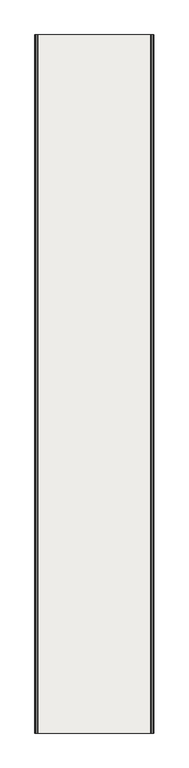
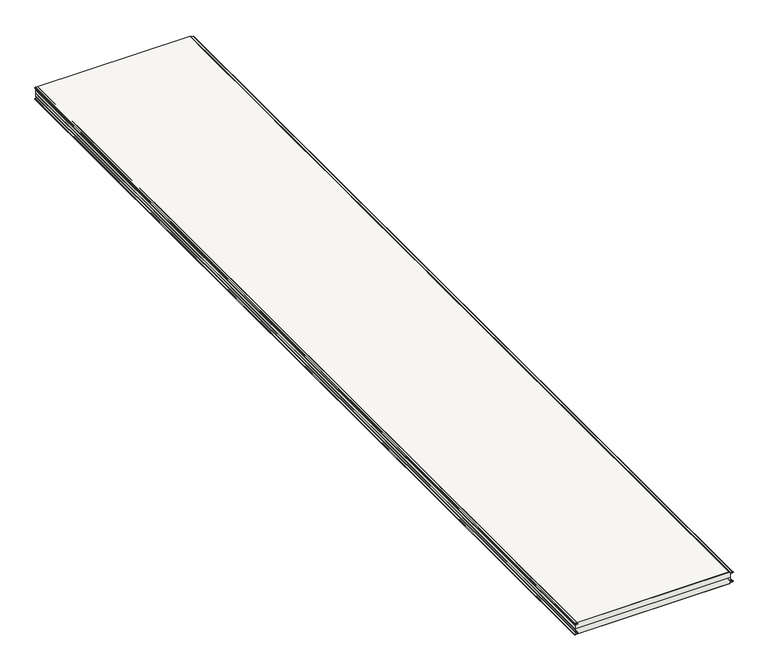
"""IFC4 building model written with IfcOpenShell, lengths in millimetres: covering geometry, Płyta warstwowa ścienna SPW-S CORE WOOL (pojedynczy arkusz) : -."""

from ifc_helpers import new_model, si_unit, point, frame, frame_2d, origin, place, context, project, spatial, polyline, circle_curve, trimmed, segment, composite_curve, outline, extrude, source, transform, mapped, element, save
from ifc_brep_helpers import plane_surface, cylinder_surface, revolved_surface, advanced_brep


def covering_66d02bca(model_context):
    return source(origin(), model_context, "Body", "SolidModel", [
        advanced_brep(
        [(-1033.5, -6000.0, -16.6075105), (-1033.5, 0.0, -16.6075105), (-1033.5, 0.0, -40.0), (-1033.5, -6000.0, -40.0), (-1032.0785013, -6000.0, -15.109566), (-1032.0785013, 0.0, -15.109566), (-1021.2683586, -6000.0, -14.5430494), (-1021.2683586, 0.0, -14.5430494), (-1021.346807, -6000.0, -5.5519576), (-1021.346807, 0.0, -5.5519576), (-1037.1871545, -6000.0, -4.9987728), (-1037.1871545, 0.0, -4.9987728), (-1037.1173522, -6000.0, -1.0), (-1037.1173522, 0.0, -1.0), (-1035.0, -6000.0, -1.0), (-36.5, -6000.0, -40.0), (-36.5, -6000.0, -16.0462304), (-33.6570079, -6000.0, -13.0503418), (-22.43132, -6000.0, -12.4620284), (-22.5993141, -6000.0, -7.6513085), (-39.1884611, -6000.0, -7.0687817), (-41.1186621, -6000.0, -5.07), (-41.1186621, -6000.0, -3.0), (-43.1186621, -6000.0, -1.0), (-1035.0, 0.0, -1.0), (-43.1186621, 0.0, -1.0), (-41.1186621, 0.0, -3.0), (-41.1186621, 0.0, -5.07), (-39.1884611, 0.0, -7.0687817), (-22.5992017, 0.0, -7.6480914), (-22.43132, 0.0, -12.4620284), (-33.6570079, 0.0, -13.0503418), (-36.5, 0.0, -16.0462304), (-36.5, 0.0, -40.0)],
        [
            (0, 1),
            (1, 2),
            (2, 3),
            (3, 0),
            (0, 4, circle_curve(frame((-1032.0, -6000.0, -16.6075105), z_axis=(0.0, 1.0, 0.0), x_axis=(-1.0, 0.0, 0.0)), 1.5)),
            (4, 5),
            (5, 1, circle_curve(frame((-1032.0, 0.0, -16.6075105), z_axis=(0.0, -1.0, 0.0), x_axis=(-1.0, 0.0, 0.0)), 1.5)),
            (4, 6),
            (6, 7),
            (7, 5),
            (6, 8, circle_curve(frame((-1021.5038626, -6000.0, -10.049216), z_axis=(0.0, -1.0, 0.0), x_axis=(-1.0, 0.0, 0.0)), 4.5)),
            (8, 9),
            (9, 7, circle_curve(frame((-1021.5038626, 0.0, -10.049216), z_axis=(0.0, 1.0, 0.0), x_axis=(-1.0, 0.0, 0.0)), 4.5)),
            (8, 10),
            (10, 11),
            (11, 9),
            (10, 12, circle_curve(frame((-1037.1173522, -6000.0, -2.9999956), z_axis=(0.0, 1.0, 0.0), x_axis=(-1.0, 0.0, 0.0)), 1.9999956)),
            (12, 13),
            (13, 11, circle_curve(frame((-1037.1173522, 0.0, -2.9999956), z_axis=(0.0, -1.0, 0.0), x_axis=(-1.0, 0.0, 0.0)), 1.9999956)),
            (14, 12),
            (3, 15),
            (15, 16),
            (16, 17, circle_curve(frame((-33.5, -6000.0, -16.0462304), z_axis=(0.0, 1.0, 0.0), x_axis=(-1.0, 0.0, 0.0)), 3.0)),
            (17, 18),
            (18, 19, circle_curve(frame((-22.6835162, -6000.0, -10.0625421), z_axis=(0.0, -1.0, 0.0), x_axis=(-1.0, 0.0, 0.0)), 2.4127033)),
            (19, 20),
            (20, 21, circle_curve(frame((-39.1186621, -6000.0, -5.07), z_axis=(0.0, 1.0, 0.0), x_axis=(-1.0, 0.0, 0.0)), 2.0)),
            (21, 22),
            (22, 23, circle_curve(frame((-43.1186621, -6000.0, -3.0), z_axis=(0.0, -1.0, 0.0), x_axis=(-1.0, 0.0, 0.0)), 2.0)),
            (23, 14),
            (13, 24),
            (24, 25),
            (25, 26, circle_curve(frame((-43.1186621, 0.0, -3.0), z_axis=(0.0, 1.0, 0.0), x_axis=(-1.0, 0.0, 0.0)), 2.0)),
            (26, 27),
            (27, 28, circle_curve(frame((-39.1186621, 0.0, -5.07), z_axis=(0.0, -1.0, 0.0), x_axis=(-1.0, 0.0, 0.0)), 2.0)),
            (28, 29),
            (29, 30, circle_curve(frame((-22.6835162, 0.0, -10.0625421), z_axis=(0.0, 1.0, 0.0), x_axis=(-1.0, 0.0, 0.0)), 2.4127033)),
            (30, 31),
            (31, 32, circle_curve(frame((-33.5, 0.0, -16.0462304), z_axis=(0.0, -1.0, 0.0), x_axis=(-1.0, 0.0, 0.0)), 3.0)),
            (32, 33),
            (33, 2),
            (23, 25),
            (33, 15),
            (22, 26),
            (21, 27),
            (20, 28),
            (19, 29),
            (18, 30),
            (17, 31),
            (16, 32),
        ],
        [
            plane_surface(frame((-1033.5, -6000.0, -63.3924895), z_axis=(-1.0, 0.0, 0.0), x_axis=(0.0, 1.0, 0.0))),
            cylinder_surface(frame((-1032.0, -6000.0, -16.6075105), z_axis=(0.0, 1.0, 0.0), x_axis=(-1.0, 0.0, 0.0)), 1.5),
            plane_surface(frame((-1032.0785013, -6000.0, -15.109566), z_axis=(-0.052334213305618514, 0.0, 0.9986296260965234), x_axis=(0.0, 1.0, 0.0))),
            revolved_surface(polyline([(-1026.0038626, -6000.0, -10.049216), (-1026.0038626, 0.0, -10.049216)]), (-1021.5038626, -6000.0, -10.049216), (0.0, -1.0, 0.0)),
            plane_surface(frame((-1021.346807, -6000.0, -5.5519576), z_axis=(-0.03490124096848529, 0.0, -0.9993907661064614), x_axis=(0.0, 1.0, 0.0))),
            cylinder_surface(frame((-1037.1173522, -6000.0, -2.9999956), z_axis=(0.0, 1.0, 0.0), x_axis=(-1.0, 0.0, 0.0)), 1.9999956),
            plane_surface(frame((-1065.0, -6000.0, -1.0), z_axis=(0.0, -1.0, 0.0), x_axis=(-1.0, 0.0, 0.0))),
            plane_surface(frame((-1065.0, 0.0, -1.0), z_axis=(0.0, 1.0, 0.0), x_axis=(1.0, 0.0, 0.0))),
            plane_surface(frame((15.0, -6000.0, -1.0), z_axis=(0.0, 0.0, 1.0), x_axis=(0.0, 1.0, 0.0))),
            plane_surface(frame((-1065.0, -6000.0, -40.0), z_axis=(0.0, 0.0, -1.0), x_axis=(0.0, 1.0, 0.0))),
            cylinder_surface(frame((-43.1186621, -6000.0, -3.0), z_axis=(0.0, 1.0, 0.0), x_axis=(-1.0, 0.0, 0.0)), 2.0),
            plane_surface(frame((-41.1186621, -6000.0, -3.0), z_axis=(1.0, 0.0, 0.0), x_axis=(0.0, 1.0, 0.0))),
            revolved_surface(polyline([(-41.1186621, -6000.0, -5.07), (-41.1186621, 0.0, -5.07)]), (-39.1186621, -6000.0, -5.07), (0.0, -1.0, 0.0)),
            plane_surface(frame((-39.1884611, -6000.0, -7.0687817), z_axis=(0.0348994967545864, 0.0, 0.9993908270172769), x_axis=(0.0, 1.0, 0.0))),
            cylinder_surface(frame((-22.6835162, -6000.0, -10.0625421), z_axis=(0.0, 1.0, 0.0), x_axis=(-1.0, 0.0, 0.0)), 2.4127033),
            plane_surface(frame((-22.43132, -6000.0, -12.4620284), z_axis=(0.052335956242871, 0.0, -0.9986295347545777), x_axis=(0.0, 1.0, 0.0))),
            revolved_surface(polyline([(-36.5, -6000.0, -16.0462304), (-36.5, 0.0, -16.0462304)]), (-33.5, -6000.0, -16.0462304), (0.0, -1.0, 0.0)),
            plane_surface(frame((-36.5, -6000.0, -16.0462304), z_axis=(1.0, 0.0, 0.0), x_axis=(0.0, 1.0, 0.0))),
        ],
        [
            (0, [[1, 2, 3, 4]]),
            (1, [[-1, 5, 6, 7]]),
            (2, [[-6, 8, 9, 10]]),
            (3, [[-9, 11, 12, 13]]),
            (4, [[-12, 14, 15, 16]]),
            (5, [[-15, 17, 18, 19]]),
            (6, [[20, -17, -14, -11, -8, -5, -4, 21, 22, 23, 24, 25, 26, 27, 28, 29, 30]]),
            (7, [[31, 32, 33, 34, 35, 36, 37, 38, 39, 40, 41, -2, -7, -10, -13, -16, -19]]),
            (8, [[-20, -30, 42, -32, -31, -18]]),
            (9, [[-3, -41, 43, -21]]),
            (10, [[44, -33, -42, -29]]),
            (11, [[-44, -28, 45, -34]]),
            (12, [[-45, -27, 46, -35]]),
            (13, [[-46, -26, 47, -36]]),
            (14, [[-47, -25, 48, -37]]),
            (15, [[-48, -24, 49, -38]]),
            (16, [[-49, -23, 50, -39]]),
            (17, [[-50, -22, -43, -40]]),
        ],
    ),
        advanced_brep(
        [(-1037.1173522, -6000.0, -79.0), (-1035.0, -6000.0, -79.0), (-44.6192414, -6000.0, -79.0), (-43.1186621, -6000.0, -79.0), (-41.1186621, -6000.0, -77.0), (-41.1186621, -6000.0, -74.93), (-39.1884611, -6000.0, -72.9312183), (-22.5992017, -6000.0, -72.3519086), (-22.1786572, -6000.0, -67.5781667), (-33.6570079, -6000.0, -66.9496582), (-36.5, -6000.0, -63.9537696), (-36.5, -6000.0, -40.0), (-1033.5, -6000.0, -40.0), (-1033.5, -6000.0, -63.3924895), (-1032.0785013, -6000.0, -64.890434), (-1021.2683586, -6000.0, -65.4569506), (-1021.346807, -6000.0, -74.4480424), (-1037.1871545, -6000.0, -75.0012272), (-1035.0, 0.0, -79.0), (-1037.1173522, 0.0, -79.0), (-1037.1871545, 0.0, -75.0012272), (-1021.346807, 0.0, -74.4480424), (-1021.2683586, 0.0, -65.4569506), (-1032.0785013, 0.0, -64.890434), (-1033.5, 0.0, -63.3924895), (-1033.5, 0.0, -40.0), (-36.5, 0.0, -40.0), (-36.5, 0.0, -63.9537696), (-33.6570079, 0.0, -66.9496582), (-22.1786572, 0.0, -67.5781667), (-22.5993141, 0.0, -72.3486915), (-39.1884611, 0.0, -72.9312183), (-41.1186621, 0.0, -74.93), (-41.1186621, 0.0, -77.0), (-43.1186621, 0.0, -79.0), (-44.6192414, 0.0, -79.0)],
        [
            (0, 1),
            (1, 2),
            (2, 3),
            (3, 4, circle_curve(frame((-43.1186621, -6000.0, -77.0), z_axis=(0.0, -1.0, 0.0), x_axis=(-1.0, 0.0, 0.0)), 2.0)),
            (4, 5),
            (5, 6, circle_curve(frame((-39.1186621, -6000.0, -74.93), z_axis=(0.0, 1.0, 0.0), x_axis=(-1.0, 0.0, 0.0)), 2.0)),
            (6, 7),
            (7, 8, circle_curve(frame((-22.6835162, -6000.0, -69.9374579), z_axis=(0.0, -1.0, 0.0), x_axis=(-1.0, 0.0, 0.0)), 2.4127033)),
            (8, 9),
            (9, 10, circle_curve(frame((-33.5, -6000.0, -63.9537696), z_axis=(0.0, 1.0, 0.0), x_axis=(-1.0, 0.0, 0.0)), 3.0)),
            (10, 11),
            (11, 12),
            (12, 13),
            (13, 14, circle_curve(frame((-1032.0, -6000.0, -63.3924895), z_axis=(0.0, -1.0, 0.0), x_axis=(-1.0, 0.0, 0.0)), 1.5)),
            (14, 15),
            (15, 16, circle_curve(frame((-1021.5038626, -6000.0, -69.950784), z_axis=(0.0, 1.0, 0.0), x_axis=(-1.0, 0.0, 0.0)), 4.5)),
            (16, 17),
            (17, 0, circle_curve(frame((-1037.1173522, -6000.0, -77.0000044), z_axis=(0.0, -1.0, 0.0), x_axis=(-1.0, 0.0, 0.0)), 1.9999956)),
            (18, 19),
            (19, 20, circle_curve(frame((-1037.1173522, 0.0, -77.0000044), z_axis=(0.0, 1.0, 0.0), x_axis=(-1.0, 0.0, 0.0)), 1.9999956)),
            (20, 21),
            (21, 22, circle_curve(frame((-1021.5038626, 0.0, -69.950784), z_axis=(0.0, -1.0, 0.0), x_axis=(-1.0, 0.0, 0.0)), 4.5)),
            (22, 23),
            (23, 24, circle_curve(frame((-1032.0, 0.0, -63.3924895), z_axis=(0.0, 1.0, 0.0), x_axis=(-1.0, 0.0, 0.0)), 1.5)),
            (24, 25),
            (25, 26),
            (26, 27),
            (27, 28, circle_curve(frame((-33.5, 0.0, -63.9537696), z_axis=(0.0, -1.0, 0.0), x_axis=(-1.0, 0.0, 0.0)), 3.0)),
            (28, 29),
            (29, 30, circle_curve(frame((-22.6835162, 0.0, -69.9374579), z_axis=(0.0, 1.0, 0.0), x_axis=(-1.0, 0.0, 0.0)), 2.4127033)),
            (30, 31),
            (31, 32, circle_curve(frame((-39.1186621, 0.0, -74.93), z_axis=(0.0, -1.0, 0.0), x_axis=(-1.0, 0.0, 0.0)), 2.0)),
            (32, 33),
            (33, 34, circle_curve(frame((-43.1186621, 0.0, -77.0), z_axis=(0.0, 1.0, 0.0), x_axis=(-1.0, 0.0, 0.0)), 2.0)),
            (34, 35),
            (35, 18),
            (25, 12),
            (11, 26),
            (0, 19),
            (34, 3),
            (17, 20),
            (16, 21),
            (15, 22),
            (14, 23),
            (13, 24),
            (10, 27),
            (9, 28),
            (8, 29),
            (7, 30),
            (6, 31),
            (5, 32),
            (4, 33),
        ],
        [
            plane_surface(frame((-1065.0, -6000.0, -40.0), z_axis=(0.0, -1.0, 0.0), x_axis=(-1.0, 0.0, 0.0))),
            plane_surface(frame((-1065.0, 0.0, -40.0), z_axis=(0.0, 1.0, 0.0), x_axis=(1.0, 0.0, 0.0))),
            plane_surface(frame((15.0, -6000.0, -40.0), z_axis=(0.0, 0.0, 1.0), x_axis=(0.0, 1.0, 0.0))),
            plane_surface(frame((-1065.0, -6000.0, -79.0), z_axis=(0.0, 0.0, -1.0), x_axis=(0.0, 1.0, 0.0))),
            cylinder_surface(frame((-1037.1173522, -6000.0, -77.0000044), z_axis=(0.0, 1.0, 0.0), x_axis=(-1.0, 0.0, 0.0)), 1.9999956),
            plane_surface(frame((-1037.1871545, -6000.0, -75.0012272), z_axis=(-0.03490124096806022, 0.0, 0.9993907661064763), x_axis=(0.0, 1.0, 0.0))),
            revolved_surface(polyline([(-1026.0038626, -6000.0, -69.950784), (-1026.0038626, 0.0, -69.950784)]), (-1021.5038626, -6000.0, -69.950784), (0.0, -1.0, 0.0)),
            plane_surface(frame((-1021.2683586, -6000.0, -65.4569506), z_axis=(-0.05233421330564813, 0.0, -0.9986296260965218), x_axis=(0.0, 1.0, 0.0))),
            cylinder_surface(frame((-1032.0, -6000.0, -63.3924895), z_axis=(0.0, 1.0, 0.0), x_axis=(-1.0, 0.0, 0.0)), 1.5),
            plane_surface(frame((-1033.5, -6000.0, -63.3924895), z_axis=(-1.0, 0.0, 0.0), x_axis=(0.0, 1.0, 0.0))),
            plane_surface(frame((-36.5, -6000.0, -16.0462304), z_axis=(1.0, 0.0, 0.0), x_axis=(0.0, 1.0, 0.0))),
            revolved_surface(polyline([(-36.5, -6000.0, -63.9537696), (-36.5, 0.0, -63.9537696)]), (-33.5, -6000.0, -63.9537696), (0.0, -1.0, 0.0)),
            plane_surface(frame((-33.6570079, -6000.0, -66.9496582), z_axis=(0.05467409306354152, 0.0, 0.9985042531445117), x_axis=(0.0, 1.0, 0.0))),
            cylinder_surface(frame((-22.6835162, -6000.0, -69.9374579), z_axis=(0.0, 1.0, 0.0), x_axis=(-1.0, 0.0, 0.0)), 2.4127033),
            plane_surface(frame((-22.5992017, -6000.0, -72.3519086), z_axis=(0.03489949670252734, 0.0, -0.9993908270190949), x_axis=(0.0, 1.0, 0.0))),
            revolved_surface(polyline([(-41.1186621, -6000.0, -74.93), (-41.1186621, 0.0, -74.93)]), (-39.1186621, -6000.0, -74.93), (0.0, -1.0, 0.0)),
            plane_surface(frame((-41.1186621, -6000.0, -74.93), z_axis=(1.0, 0.0, 0.0), x_axis=(0.0, 1.0, 0.0))),
            cylinder_surface(frame((-43.1186621, -6000.0, -77.0), z_axis=(0.0, 1.0, 0.0), x_axis=(-1.0, 0.0, 0.0)), 2.0),
        ],
        [
            (0, [[1, 2, 3, 4, 5, 6, 7, 8, 9, 10, 11, 12, 13, 14, 15, 16, 17, 18]]),
            (1, [[19, 20, 21, 22, 23, 24, 25, 26, 27, 28, 29, 30, 31, 32, 33, 34, 35, 36]]),
            (2, [[37, -12, 38, -26]]),
            (3, [[-1, 39, -19, -36, -35, 40, -3, -2]]),
            (4, [[41, -20, -39, -18]]),
            (5, [[-41, -17, 42, -21]]),
            (6, [[-42, -16, 43, -22]]),
            (7, [[-43, -15, 44, -23]]),
            (8, [[-44, -14, 45, -24]]),
            (9, [[-45, -13, -37, -25]]),
            (10, [[46, -27, -38, -11]]),
            (11, [[-46, -10, 47, -28]]),
            (12, [[-47, -9, 48, -29]]),
            (13, [[-48, -8, 49, -30]]),
            (14, [[-49, -7, 50, -31]]),
            (15, [[-50, -6, 51, -32]]),
            (16, [[-51, -5, 52, -33]]),
            (17, [[-52, -4, -40, -34]]),
        ],
    ),
        advanced_brep(
        [(-39.1884611, 0.0, -72.9312183), (-41.1186621, 0.0, -74.93), (-41.1186621, -6000.0, -74.93), (-39.1884611, -6000.0, -72.9312183), (-41.1186621, 0.0, -77.0), (-41.1186621, -6000.0, -77.0), (-43.1186621, 0.0, -79.0), (-43.1186621, -6000.0, -79.0), (-22.5992017, 0.0, -72.3519086), (-22.5992017, -6000.0, -72.3519086), (-33.6570079, 0.0, -66.9496582), (-22.43132, 0.0, -67.5379716), (-22.43132, -6000.0, -67.5379716), (-33.6570079, -6000.0, -66.9496582), (-35.5, 0.0, -61.4537696), (-36.5, 0.0, -61.4537696), (-36.5, -6000.0, -61.4537696), (-35.5, -6000.0, -61.4537696), (-36.5, 0.0, -63.9537696), (-36.5, -6000.0, -63.9537696), (-40.1186621, 0.0, -74.93), (-39.1535616, 0.0, -73.9306092), (-39.1535616, -6000.0, -73.9306092), (-40.1186621, -6000.0, -74.93), (-35.5, 0.0, -63.9537696), (-35.5, -6000.0, -63.9537696), (-33.6046719, 0.0, -65.9510287), (-33.6046719, -6000.0, -65.9510287), (-22.6071775, 0.0, -66.5273829), (-22.6071775, -6000.0, -66.5273829), (-22.7218558, 0.0, -73.3568014), (-22.7218558, -6000.0, -73.3568014), (-40.1186621, 0.0, -77.0), (-40.1186621, -6000.0, -77.0), (-43.1186621, 0.0, -80.0), (-43.1186621, -6000.0, -80.0), (-1037.1173522, -6000.0, -79.0), (-1037.1871545, -6000.0, -75.0012272), (-1021.346807, -6000.0, -74.4480424), (-1021.2683586, -6000.0, -65.4569506), (-1032.0785013, -6000.0, -64.890434), (-1033.5, -6000.0, -63.3924895), (-1033.5, -6000.0, -60.8924895), (-1034.5, -6000.0, -60.8924895), (-1034.5, -6000.0, -63.3924895), (-1032.1308355, -6000.0, -65.8890636), (-1021.3206928, -6000.0, -66.4555803), (-1021.3817082, -6000.0, -73.4486516), (-1037.2220557, -6000.0, -74.0018364), (-1037.1173522, -6000.0, -80.0), (-1037.1173522, 0.0, -80.0), (-1037.2220557, 0.0, -74.0018364), (-1021.3817082, 0.0, -73.4486516), (-1021.3206928, 0.0, -66.4555803), (-1032.1308355, 0.0, -65.8890636), (-1034.5, 0.0, -63.3924895), (-1034.5, 0.0, -60.8924895), (-1033.5, 0.0, -60.8924895), (-1033.5, 0.0, -63.3924895), (-1032.0785013, 0.0, -64.890434), (-1021.2683586, 0.0, -65.4569506), (-1021.346807, 0.0, -74.4480424), (-1037.1871545, 0.0, -75.0012272), (-1037.1173522, 0.0, -79.0)],
        [
            (0, 1, circle_curve(frame((-39.1186621, 0.0, -74.93), z_axis=(0.0, -1.0, 0.0), x_axis=(1.0, 0.0, 0.0)), 2.0)),
            (1, 2),
            (2, 3, circle_curve(frame((-39.1186621, -6000.0, -74.93), z_axis=(0.0, 1.0, 0.0), x_axis=(1.0, 0.0, 0.0)), 2.0)),
            (3, 0),
            (1, 4),
            (4, 5),
            (5, 2),
            (4, 6, circle_curve(frame((-43.1186621, 0.0, -77.0), z_axis=(0.0, 1.0, 0.0), x_axis=(1.0, 0.0, 0.0)), 2.0)),
            (6, 7),
            (7, 5, circle_curve(frame((-43.1186621, -6000.0, -77.0), z_axis=(0.0, -1.0, 0.0), x_axis=(1.0, 0.0, 0.0)), 2.0)),
            (8, 0),
            (3, 9),
            (9, 8),
            (10, 11),
            (11, 12),
            (12, 13),
            (13, 10),
            (14, 15),
            (15, 16),
            (16, 17),
            (17, 14),
            (18, 10, circle_curve(frame((-33.5, 0.0, -63.9537696), z_axis=(0.0, -1.0, 0.0), x_axis=(1.0, 0.0, 0.0)), 3.0)),
            (13, 19, circle_curve(frame((-33.5, -6000.0, -63.9537696), z_axis=(0.0, 1.0, 0.0), x_axis=(1.0, 0.0, 0.0)), 3.0)),
            (19, 18),
            (15, 18),
            (19, 16),
            (20, 21, circle_curve(frame((-39.1186621, 0.0, -74.93), z_axis=(0.0, 1.0, 0.0), x_axis=(1.0, 0.0, 0.0)), 1.0)),
            (21, 22),
            (22, 23, circle_curve(frame((-39.1186621, -6000.0, -74.93), z_axis=(0.0, -1.0, 0.0), x_axis=(1.0, 0.0, 0.0)), 1.0)),
            (23, 20),
            (24, 14),
            (17, 25),
            (25, 24),
            (26, 24, circle_curve(frame((-33.5, 0.0, -63.9537696), z_axis=(0.0, 1.0, 0.0), x_axis=(1.0, 0.0, 0.0)), 2.0)),
            (25, 27, circle_curve(frame((-33.5, -6000.0, -63.9537696), z_axis=(0.0, -1.0, 0.0), x_axis=(1.0, 0.0, 0.0)), 2.0)),
            (27, 26),
            (28, 26),
            (27, 29),
            (29, 28),
            (21, 30),
            (30, 31),
            (31, 22),
            (32, 20),
            (23, 33),
            (33, 32),
            (34, 32, circle_curve(frame((-43.1186621, 0.0, -77.0), z_axis=(0.0, -1.0, 0.0), x_axis=(1.0, 0.0, 0.0)), 3.0)),
            (33, 35, circle_curve(frame((-43.1186621, -6000.0, -77.0), z_axis=(0.0, 1.0, 0.0), x_axis=(1.0, 0.0, 0.0)), 3.0)),
            (35, 34),
            (11, 8, circle_curve(frame((-22.6835162, 0.0, -69.9374579), z_axis=(0.0, 1.0, 0.0), x_axis=(1.0, 0.0, 0.0)), 2.4127033)),
            (9, 12, circle_curve(frame((-22.6835162, -6000.0, -69.9374579), z_axis=(0.0, -1.0, 0.0), x_axis=(1.0, 0.0, 0.0)), 2.4127033)),
            (30, 28, circle_curve(frame((-22.6835162, 0.0, -69.9374579), z_axis=(0.0, -1.0, 0.0), x_axis=(1.0, 0.0, 0.0)), 3.4127033)),
            (29, 31, circle_curve(frame((-22.6835162, -6000.0, -69.9374579), z_axis=(0.0, 1.0, 0.0), x_axis=(1.0, 0.0, 0.0)), 3.4127033)),
            (36, 37, circle_curve(frame((-1037.1173522, -6000.0, -77.0000044), z_axis=(0.0, 1.0, 0.0), x_axis=(1.0, 0.0, 0.0)), 1.9999956)),
            (37, 38),
            (38, 39, circle_curve(frame((-1021.5038626, -6000.0, -69.950784), z_axis=(0.0, -1.0, 0.0), x_axis=(1.0, 0.0, 0.0)), 4.5)),
            (39, 40),
            (40, 41, circle_curve(frame((-1032.0, -6000.0, -63.3924895), z_axis=(0.0, 1.0, 0.0), x_axis=(1.0, 0.0, 0.0)), 1.5)),
            (41, 42),
            (42, 43),
            (43, 44),
            (44, 45, circle_curve(frame((-1032.0, -6000.0, -63.3924895), z_axis=(0.0, -1.0, 0.0), x_axis=(1.0, 0.0, 0.0)), 2.5)),
            (45, 46),
            (46, 47, circle_curve(frame((-1021.5038626, -6000.0, -69.950784), z_axis=(0.0, 1.0, 0.0), x_axis=(1.0, 0.0, 0.0)), 3.5)),
            (47, 48),
            (48, 49, circle_curve(frame((-1037.1173522, -6000.0, -77.0000044), z_axis=(0.0, -1.0, 0.0), x_axis=(1.0, 0.0, 0.0)), 2.9999956)),
            (49, 35),
            (7, 36),
            (34, 50),
            (50, 51, circle_curve(frame((-1037.1173522, 0.0, -77.0000044), z_axis=(0.0, 1.0, 0.0), x_axis=(1.0, 0.0, 0.0)), 2.9999956)),
            (51, 52),
            (52, 53, circle_curve(frame((-1021.5038626, 0.0, -69.950784), z_axis=(0.0, -1.0, 0.0), x_axis=(1.0, 0.0, 0.0)), 3.5)),
            (53, 54),
            (54, 55, circle_curve(frame((-1032.0, 0.0, -63.3924895), z_axis=(0.0, 1.0, 0.0), x_axis=(1.0, 0.0, 0.0)), 2.5)),
            (55, 56),
            (56, 57),
            (57, 58),
            (58, 59, circle_curve(frame((-1032.0, 0.0, -63.3924895), z_axis=(0.0, -1.0, 0.0), x_axis=(1.0, 0.0, 0.0)), 1.5)),
            (59, 60),
            (60, 61, circle_curve(frame((-1021.5038626, 0.0, -69.950784), z_axis=(0.0, 1.0, 0.0), x_axis=(1.0, 0.0, 0.0)), 4.5)),
            (61, 62),
            (62, 63, circle_curve(frame((-1037.1173522, 0.0, -77.0000044), z_axis=(0.0, -1.0, 0.0), x_axis=(1.0, 0.0, 0.0)), 1.9999956)),
            (63, 6),
            (36, 63),
            (62, 37),
            (61, 38),
            (60, 39),
            (59, 40),
            (58, 41),
            (57, 42),
            (56, 43),
            (55, 44),
            (54, 45),
            (53, 46),
            (52, 47),
            (51, 48),
            (50, 49),
        ],
        [
            cylinder_surface(frame((-39.1186621, 0.0, -74.93), z_axis=(0.0, 1.0, 0.0), x_axis=(1.0, 0.0, 0.0)), 2.0),
            plane_surface(frame((-41.1186621, 0.0, -77.0), z_axis=(-1.0, 0.0, 0.0), x_axis=(0.0, -1.0, 0.0))),
            revolved_surface(polyline([(-41.1186621, -6000.0, -77.0), (-41.1186621, 0.0, -77.0)]), (-43.1186621, 0.0, -77.0), (0.0, -1.0, 0.0)),
            plane_surface(frame((-39.1884611, 0.0, -72.9312183), z_axis=(-0.03489949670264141, 0.0, 0.9993908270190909), x_axis=(0.0, -1.0, 0.0))),
            plane_surface(frame((-22.43132, 0.0, -67.5379716), z_axis=(-0.052335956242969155, 0.0, -0.9986295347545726), x_axis=(0.0, -1.0, 0.0))),
            plane_surface(frame((-36.5, 0.0, -61.4537696), z_axis=(0.0, 0.0, 1.0), x_axis=(0.0, -1.0, 0.0))),
            cylinder_surface(frame((-33.5, 0.0, -63.9537696), z_axis=(0.0, 1.0, 0.0), x_axis=(1.0, 0.0, 0.0)), 3.0),
            plane_surface(frame((-36.5, 0.0, -63.9537696), z_axis=(-1.0, 0.0, 0.0), x_axis=(0.0, -1.0, 0.0))),
            revolved_surface(polyline([(-38.1186621, -6000.0, -74.93), (-38.1186621, 0.0, -74.93)]), (-39.1186621, 0.0, -74.93), (0.0, -1.0, 0.0)),
            plane_surface(frame((-35.5, 0.0, -61.4537696), z_axis=(1.0, 0.0, 0.0), x_axis=(0.0, -1.0, 0.0))),
            revolved_surface(polyline([(-31.5, -6000.0, -63.9537696), (-31.5, 0.0, -63.9537696)]), (-33.5, 0.0, -63.9537696), (0.0, -1.0, 0.0)),
            plane_surface(frame((-33.6046719, 0.0, -65.9510287), z_axis=(0.05233595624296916, 0.0, 0.9986295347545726), x_axis=(0.0, -1.0, 0.0))),
            plane_surface(frame((-22.7218558, 0.0, -73.3568014), z_axis=(0.0348994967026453, 0.0, -0.9993908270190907), x_axis=(0.0, -1.0, 0.0))),
            plane_surface(frame((-40.1186621, 0.0, -74.93), z_axis=(1.0, 0.0, 0.0), x_axis=(0.0, -1.0, 0.0))),
            cylinder_surface(frame((-43.1186621, 0.0, -77.0), z_axis=(0.0, 1.0, 0.0), x_axis=(1.0, 0.0, 0.0)), 3.0),
            revolved_surface(polyline([(-20.2708129, -6000.0, -69.9374579), (-20.2708129, 0.0, -69.9374579)]), (-22.6835162, 0.0, -69.9374579), (0.0, -1.0, 0.0)),
            cylinder_surface(frame((-22.6835162, 0.0, -69.9374579), z_axis=(0.0, 1.0, 0.0), x_axis=(1.0, 0.0, 0.0)), 3.4127033),
            plane_surface(frame((-1035.0, -6000.0, -80.0), z_axis=(0.0, -1.0, 0.0), x_axis=(0.0, 0.0, -1.0))),
            plane_surface(frame((-1035.0, 0.0, -80.0), z_axis=(0.0, 1.0, 0.0), x_axis=(0.0, 0.0, -1.0))),
            revolved_surface(polyline([(-1035.1173566, 0.0, -77.0000044), (-1035.1173566, -6000.0, -77.0000044)]), (-1037.1173522, -6000.0, -77.0000044), (0.0, 1.0, 0.0)),
            plane_surface(frame((-1037.1871545, -6000.0, -75.0012272), z_axis=(0.03490124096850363, 0.0, -0.9993907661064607), x_axis=(0.0, 1.0, 0.0))),
            cylinder_surface(frame((-1021.5038626, -6000.0, -69.950784), z_axis=(0.0, -1.0, 0.0), x_axis=(1.0, 0.0, 0.0)), 4.5),
            plane_surface(frame((-1021.2683586, -6000.0, -65.4569506), z_axis=(0.05233421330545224, 0.0, 0.9986296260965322), x_axis=(0.0, 1.0, 0.0))),
            revolved_surface(polyline([(-1030.5, 0.0, -63.3924895), (-1030.5, -6000.0, -63.3924895)]), (-1032.0, -6000.0, -63.3924895), (0.0, 1.0, 0.0)),
            plane_surface(frame((-1033.5, -6000.0, -63.3924895), z_axis=(1.0, 0.0, 0.0), x_axis=(0.0, 1.0, 0.0))),
            plane_surface(frame((-1033.5, -6000.0, -60.8924895), z_axis=(0.0, 0.0, 1.0), x_axis=(0.0, 1.0, 0.0))),
            plane_surface(frame((-1034.5, -6000.0, -60.8924895), z_axis=(-1.0, 0.0, 0.0), x_axis=(0.0, 1.0, 0.0))),
            cylinder_surface(frame((-1032.0, -6000.0, -63.3924895), z_axis=(0.0, -1.0, 0.0), x_axis=(1.0, 0.0, 0.0)), 2.5),
            plane_surface(frame((-1032.1308355, -6000.0, -65.8890636), z_axis=(-0.052334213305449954, 0.0, -0.9986296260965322), x_axis=(0.0, 1.0, 0.0))),
            revolved_surface(polyline([(-1018.0038626, 0.0, -69.950784), (-1018.0038626, -6000.0, -69.950784)]), (-1021.5038626, -6000.0, -69.950784), (0.0, 1.0, 0.0)),
            plane_surface(frame((-1021.3817082, -6000.0, -73.4486516), z_axis=(-0.03490124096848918, 0.0, 0.9993907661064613), x_axis=(0.0, 1.0, 0.0))),
            cylinder_surface(frame((-1037.1173522, -6000.0, -77.0000044), z_axis=(0.0, -1.0, 0.0), x_axis=(1.0, 0.0, 0.0)), 2.9999956),
            plane_surface(frame((-1037.1173522, -6000.0, -80.0), z_axis=(0.0, 0.0, -1.0), x_axis=(0.0, 1.0, 0.0))),
            plane_surface(frame((-1035.0, -6000.0, -79.0), z_axis=(0.0, 0.0, 1.0), x_axis=(0.0, 1.0, 0.0))),
        ],
        [
            (0, [[1, 2, 3, 4]]),
            (1, [[5, 6, 7, -2]]),
            (2, [[8, 9, 10, -6]]),
            (3, [[11, -4, 12, 13]]),
            (4, [[14, 15, 16, 17]]),
            (5, [[18, 19, 20, 21]]),
            (6, [[22, -17, 23, 24]]),
            (7, [[25, -24, 26, -19]]),
            (8, [[27, 28, 29, 30]]),
            (9, [[31, -21, 32, 33]]),
            (10, [[34, -33, 35, 36]]),
            (11, [[37, -36, 38, 39]]),
            (12, [[40, 41, 42, -28]]),
            (13, [[43, -30, 44, 45]]),
            (14, [[46, -45, 47, 48]]),
            (15, [[49, -13, 50, -15]]),
            (16, [[51, -39, 52, -41]]),
            (17, [[53, 54, 55, 56, 57, 58, 59, 60, 61, 62, 63, 64, 65, 66, -47, -44, -29, -42, -52, -38, -35, -32, -20, -26, -23, -16, -50, -12, -3, -7, -10, 67]]),
            (18, [[-8, -5, -1, -11, -49, -14, -22, -25, -18, -31, -34, -37, -51, -40, -27, -43, -46, 68, 69, 70, 71, 72, 73, 74, 75, 76, 77, 78, 79, 80, 81, 82]]),
            (19, [[-53, 83, -81, 84]]),
            (20, [[-54, -84, -80, 85]]),
            (21, [[-55, -85, -79, 86]]),
            (22, [[-56, -86, -78, 87]]),
            (23, [[-57, -87, -77, 88]]),
            (24, [[-58, -88, -76, 89]]),
            (25, [[-59, -89, -75, 90]]),
            (26, [[-60, -90, -74, 91]]),
            (27, [[-61, -91, -73, 92]]),
            (28, [[-62, -92, -72, 93]]),
            (29, [[-63, -93, -71, 94]]),
            (30, [[-64, -94, -70, 95]]),
            (31, [[-65, -95, -69, 96]]),
            (32, [[-66, -96, -68, -48]]),
            (33, [[-67, -9, -82, -83]]),
        ],
    ),
        extrude(outline(composite_curve([segment(polyline([(-1.0, -1037.1173522), (-1.0, -1035.0), (0.0, -1035.0), (0.0, -1037.1173522)]), True, "CONTINUOUS"), segment(trimmed(circle_curve(frame_2d((-2.9999956, -1037.1173522)), 2.9999956), [point((0.0, -1037.1173522))], [point((-5.9981636, -1037.2220557))], False, "CARTESIAN"), True, "CONTINUOUS"), segment(polyline([(-5.9981636, -1037.2220557), (-6.5513484, -1021.3817082)]), True, "CONTINUOUS"), segment(trimmed(circle_curve(frame_2d((-10.049216, -1021.5038626)), 3.5), [point((-6.5513484, -1021.3817082))], [point((-13.5444197, -1021.3206928))], True, "CARTESIAN"), True, "CONTINUOUS"), segment(polyline([(-13.5444197, -1021.3206928), (-14.1109364, -1032.1308355)]), True, "CONTINUOUS"), segment(trimmed(circle_curve(frame_2d((-16.6075105, -1032.0)), 2.5), [point((-14.1109364, -1032.1308355))], [point((-16.6075105, -1034.5))], False, "CARTESIAN"), True, "CONTINUOUS"), segment(polyline([(-16.6075105, -1034.5), (-19.1075105, -1034.5), (-19.1075105, -1033.5), (-16.6075105, -1033.5)]), True, "CONTINUOUS"), segment(trimmed(circle_curve(frame_2d((-16.6075105, -1032.0)), 1.5), [point((-16.6075105, -1033.5))], [point((-15.109566, -1032.0785013))], True, "CARTESIAN"), True, "CONTINUOUS"), segment(polyline([(-15.109566, -1032.0785013), (-14.5430494, -1021.2683586)]), True, "CONTINUOUS"), segment(trimmed(circle_curve(frame_2d((-10.049216, -1021.5038626)), 4.5), [point((-14.5430494, -1021.2683586))], [point((-5.5519576, -1021.346807))], False, "CARTESIAN"), True, "CONTINUOUS"), segment(polyline([(-5.5519576, -1021.346807), (-4.9987728, -1037.1871545)]), True, "CONTINUOUS"), segment(trimmed(circle_curve(frame_2d((-2.9999956, -1037.1173522)), 1.9999956), [point((-4.9987728, -1037.1871545))], [point((-1.0, -1037.1173522))], True, "CARTESIAN"), True, "CONTINUOUS")], self_intersect=False)), frame((0.0, -6000.0, 0.0), z_axis=(0.0, 1.0, 0.0), x_axis=(0.0, 0.0, 1.0)), (0.0, 0.0, 1.0), 6000.0),
        advanced_brep(
        [(-1035.0, 0.0, -1.0), (-1035.0, 0.0, 0.0), (-43.1186621, 0.0, 0.0), (-40.1186621, 0.0, -3.0), (-40.1186621, 0.0, -5.07), (-39.1535616, 0.0, -6.0693908), (-22.7218558, 0.0, -6.6431986), (-22.6835162, 0.0, -13.4752455), (-33.6046719, 0.0, -14.0489713), (-35.5, 0.0, -16.0462304), (-35.5, 0.0, -18.5462304), (-36.5, 0.0, -18.5462304), (-36.5, 0.0, -16.0462304), (-33.6570079, 0.0, -13.0503418), (-22.43132, 0.0, -12.4620284), (-22.5993141, 0.0, -7.6513085), (-39.1884611, 0.0, -7.0687817), (-41.1186621, 0.0, -5.07), (-41.1186621, 0.0, -3.0), (-43.1186621, 0.0, -1.0), (-1035.0, -6000.0, -1.0), (-43.1186621, -6000.0, -1.0), (-41.1186621, -6000.0, -3.0), (-41.1186621, -6000.0, -5.07), (-39.1884611, -6000.0, -7.0687817), (-22.5992017, -6000.0, -7.6480914), (-22.43132, -6000.0, -12.4620284), (-33.6570079, -6000.0, -13.0503418), (-36.5, -6000.0, -16.0462304), (-36.5, -6000.0, -18.5462304), (-35.5, -6000.0, -18.5462304), (-35.5, -6000.0, -16.0462304), (-33.6046719, -6000.0, -14.0489713), (-22.6071775, -6000.0, -13.4726171), (-22.6835162, -6000.0, -6.6498388), (-39.1535616, -6000.0, -6.0693908), (-40.1186621, -6000.0, -5.07), (-40.1186621, -6000.0, -3.0), (-43.1186621, -6000.0, 0.0), (-1035.0, -6000.0, 0.0)],
        [
            (0, 1),
            (1, 2),
            (2, 3, circle_curve(frame((-43.1186621, 0.0, -3.0), z_axis=(0.0, 1.0, 0.0), x_axis=(1.0, 0.0, 0.0)), 3.0)),
            (3, 4),
            (4, 5, circle_curve(frame((-39.1186621, 0.0, -5.07), z_axis=(0.0, -1.0, 0.0), x_axis=(1.0, 0.0, 0.0)), 1.0)),
            (5, 6),
            (6, 7, circle_curve(frame((-22.6835162, 0.0, -10.0625421), z_axis=(0.0, 1.0, 0.0), x_axis=(1.0, 0.0, 0.0)), 3.4127033)),
            (7, 8),
            (8, 9, circle_curve(frame((-33.5, 0.0, -16.0462304), z_axis=(0.0, -1.0, 0.0), x_axis=(1.0, 0.0, 0.0)), 2.0)),
            (9, 10),
            (10, 11),
            (11, 12),
            (12, 13, circle_curve(frame((-33.5, 0.0, -16.0462304), z_axis=(0.0, 1.0, 0.0), x_axis=(1.0, 0.0, 0.0)), 3.0)),
            (13, 14),
            (14, 15, circle_curve(frame((-22.6835162, 0.0, -10.0625421), z_axis=(0.0, -1.0, 0.0), x_axis=(1.0, 0.0, 0.0)), 2.4127033)),
            (15, 16),
            (16, 17, circle_curve(frame((-39.1186621, 0.0, -5.07), z_axis=(0.0, 1.0, 0.0), x_axis=(1.0, 0.0, 0.0)), 2.0)),
            (17, 18),
            (18, 19, circle_curve(frame((-43.1186621, 0.0, -3.0), z_axis=(0.0, -1.0, 0.0), x_axis=(1.0, 0.0, 0.0)), 2.0)),
            (19, 0),
            (20, 21),
            (21, 22, circle_curve(frame((-43.1186621, -6000.0, -3.0), z_axis=(0.0, 1.0, 0.0), x_axis=(1.0, 0.0, 0.0)), 2.0)),
            (22, 23),
            (23, 24, circle_curve(frame((-39.1186621, -6000.0, -5.07), z_axis=(0.0, -1.0, 0.0), x_axis=(1.0, 0.0, 0.0)), 2.0)),
            (24, 25),
            (25, 26, circle_curve(frame((-22.6835162, -6000.0, -10.0625421), z_axis=(0.0, 1.0, 0.0), x_axis=(1.0, 0.0, 0.0)), 2.4127033)),
            (26, 27),
            (27, 28, circle_curve(frame((-33.5, -6000.0, -16.0462304), z_axis=(0.0, -1.0, 0.0), x_axis=(1.0, 0.0, 0.0)), 3.0)),
            (28, 29),
            (29, 30),
            (30, 31),
            (31, 32, circle_curve(frame((-33.5, -6000.0, -16.0462304), z_axis=(0.0, 1.0, 0.0), x_axis=(1.0, 0.0, 0.0)), 2.0)),
            (32, 33),
            (33, 34, circle_curve(frame((-22.6835162, -6000.0, -10.0625421), z_axis=(0.0, -1.0, 0.0), x_axis=(1.0, 0.0, 0.0)), 3.4127033)),
            (34, 35),
            (35, 36, circle_curve(frame((-39.1186621, -6000.0, -5.07), z_axis=(0.0, 1.0, 0.0), x_axis=(1.0, 0.0, 0.0)), 1.0)),
            (36, 37),
            (37, 38, circle_curve(frame((-43.1186621, -6000.0, -3.0), z_axis=(0.0, -1.0, 0.0), x_axis=(1.0, 0.0, 0.0)), 3.0)),
            (38, 39),
            (39, 20),
            (19, 21),
            (20, 0),
            (1, 39),
            (38, 2),
            (16, 24),
            (23, 17),
            (22, 18),
            (15, 25),
            (13, 27),
            (26, 14),
            (10, 30),
            (29, 11),
            (12, 28),
            (4, 36),
            (35, 5),
            (9, 31),
            (8, 32),
            (7, 33),
            (37, 3),
            (34, 6),
        ],
        [
            plane_surface(frame((-35.0, 0.0, 0.0), z_axis=(0.0, 1.0, 0.0), x_axis=(1.0, 0.0, 0.0))),
            plane_surface(frame((-35.0, -6000.0, 0.0), z_axis=(0.0, -1.0, 0.0), x_axis=(1.0, 0.0, 0.0))),
            plane_surface(frame((-43.1186621, 0.0, -1.0), z_axis=(0.0, 0.0, -1.0), x_axis=(0.0, -1.0, 0.0))),
            plane_surface(frame((-1035.0, 0.0, 0.0), z_axis=(0.0, 0.0, 1.0), x_axis=(0.0, -1.0, 0.0))),
            cylinder_surface(frame((-39.1186621, 0.0, -5.07), z_axis=(0.0, 1.0, 0.0), x_axis=(1.0, 0.0, 0.0)), 2.0),
            plane_surface(frame((-41.1186621, 0.0, -5.07), z_axis=(-1.0, 0.0, 0.0), x_axis=(0.0, -1.0, 0.0))),
            revolved_surface(polyline([(-41.1186621, -6000.0, -3.0), (-41.1186621, 0.0, -3.0)]), (-43.1186621, 0.0, -3.0), (0.0, -1.0, 0.0)),
            plane_surface(frame((-22.5992017, 0.0, -7.6480914), z_axis=(-0.034899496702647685, 0.0, -0.9993908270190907), x_axis=(0.0, -1.0, 0.0))),
            plane_surface(frame((-33.6570079, 0.0, -13.0503418), z_axis=(-0.05233595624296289, 0.0, 0.998629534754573), x_axis=(0.0, -1.0, 0.0))),
            plane_surface(frame((-35.5, 0.0, -18.5462304), z_axis=(0.0, 0.0, -1.0), x_axis=(0.0, -1.0, 0.0))),
            cylinder_surface(frame((-33.5, 0.0, -16.0462304), z_axis=(0.0, 1.0, 0.0), x_axis=(1.0, 0.0, 0.0)), 3.0),
            plane_surface(frame((-36.5, 0.0, -18.5462304), z_axis=(-1.0, 0.0, 0.0), x_axis=(0.0, -1.0, 0.0))),
            revolved_surface(polyline([(-38.1186621, -6000.0, -5.07), (-38.1186621, 0.0, -5.07)]), (-39.1186621, 0.0, -5.07), (0.0, -1.0, 0.0)),
            plane_surface(frame((-35.5, 0.0, -16.0462304), z_axis=(1.0, 0.0, 0.0), x_axis=(0.0, -1.0, 0.0))),
            revolved_surface(polyline([(-31.5, -6000.0, -16.0462304), (-31.5, 0.0, -16.0462304)]), (-33.5, 0.0, -16.0462304), (0.0, -1.0, 0.0)),
            plane_surface(frame((-22.6071775, 0.0, -13.4726171), z_axis=(0.052335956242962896, 0.0, -0.998629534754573), x_axis=(0.0, -1.0, 0.0))),
            cylinder_surface(frame((-43.1186621, 0.0, -3.0), z_axis=(0.0, 1.0, 0.0), x_axis=(1.0, 0.0, 0.0)), 3.0),
            plane_surface(frame((-40.1186621, 0.0, -3.0), z_axis=(1.0, 0.0, 0.0), x_axis=(0.0, -1.0, 0.0))),
            plane_surface(frame((-39.1535616, 0.0, -6.0693908), z_axis=(0.03489949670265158, 0.0, 0.9993908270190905), x_axis=(0.0, -1.0, 0.0))),
            revolved_surface(polyline([(-20.2708129, -6000.0, -10.0625421), (-20.2708129, 0.0, -10.0625421)]), (-22.6835162, 0.0, -10.0625421), (0.0, -1.0, 0.0)),
            cylinder_surface(frame((-22.6835162, 0.0, -10.0625421), z_axis=(0.0, 1.0, 0.0), x_axis=(1.0, 0.0, 0.0)), 3.4127033),
            plane_surface(frame((-1035.0, 0.0, -1.0), z_axis=(-1.0, 0.0, 0.0), x_axis=(0.0, -1.0, 0.0))),
        ],
        [
            (0, [[1, 2, 3, 4, 5, 6, 7, 8, 9, 10, 11, 12, 13, 14, 15, 16, 17, 18, 19, 20]]),
            (1, [[21, 22, 23, 24, 25, 26, 27, 28, 29, 30, 31, 32, 33, 34, 35, 36, 37, 38, 39, 40]]),
            (2, [[-20, 41, -21, 42]]),
            (3, [[-2, 43, -39, 44]]),
            (4, [[-17, 45, -24, 46]]),
            (5, [[-18, -46, -23, 47]]),
            (6, [[-19, -47, -22, -41]]),
            (7, [[-16, 48, -25, -45]]),
            (8, [[-14, 49, -27, 50]]),
            (9, [[-11, 51, -30, 52]]),
            (10, [[-13, 53, -28, -49]]),
            (11, [[-12, -52, -29, -53]]),
            (12, [[-5, 54, -36, 55]]),
            (13, [[-10, 56, -31, -51]]),
            (14, [[-9, 57, -32, -56]]),
            (15, [[-8, 58, -33, -57]]),
            (16, [[-3, -44, -38, 59]]),
            (17, [[-4, -59, -37, -54]]),
            (18, [[-6, -55, -35, 60]]),
            (19, [[-15, -50, -26, -48]]),
            (20, [[-7, -60, -34, -58]]),
            (21, [[-1, -42, -40, -43]]),
        ],
    ),
    ])


if __name__ == "__main__":
    model = new_model("IFC4")
    model_context = context("Model", 3, world=origin())
    ifc_project = project(units=[si_unit("LENGTHUNIT", "METRE", prefix="MILLI")], contexts=[model_context])
    site = spatial("IfcSite", under=ifc_project)
    building = spatial("IfcBuilding", under=site)
    placement = place(None, origin())
    covering_shape = covering_66d02bca(model_context)
    element("IfcCovering", 1, ObjectType="Płyta warstwowa ścienna SPW-S CORE WOOL (pojedynczy arkusz) : -", at=placement, inside=building, context=model_context, shape_type="MappedRepresentation", body=[
        mapped(covering_shape, transform((0.0, 0.0, 0.0), x_axis=(1.0, 0.0, 0.0), y_axis=(0.0, 1.0, 0.0), z_axis=(0.0, 0.0, 1.0))),
    ])
    save(model, "model.ifc")
